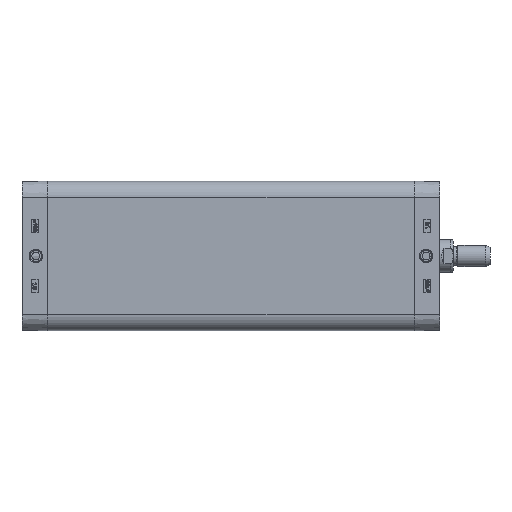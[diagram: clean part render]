
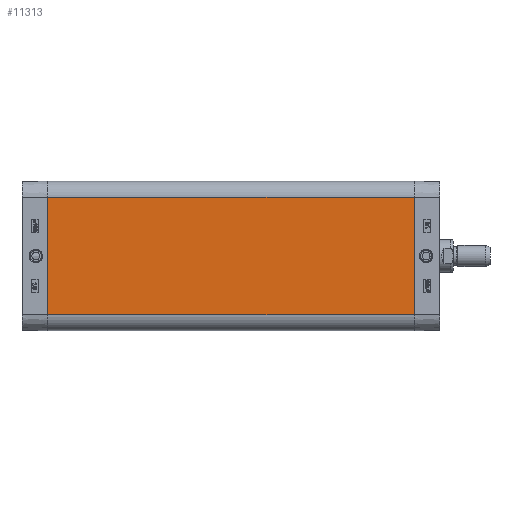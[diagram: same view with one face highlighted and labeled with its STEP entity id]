
A CAD part, left-side view. The second image highlights one B-rep face of the part: STEP entity #11313.
In plain terms, the highlighted planar face has unit normal (-1, 0, 0).
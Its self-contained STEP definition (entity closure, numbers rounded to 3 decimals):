
#5678=CARTESIAN_POINT('',(-56.65,-278.0,44.4));
#5679=VERTEX_POINT('',#5678);
#5686=CARTESIAN_POINT('',(-56.65,-278.0,-44.4));
#5687=VERTEX_POINT('',#5686);
#5688=CARTESIAN_POINT('',(-56.65,-278.0,-44.4));
#5689=DIRECTION('',(0.0,0.0,1.0));
#5690=VECTOR('',#5689,88.8);
#5691=LINE('',#5688,#5690);
#5692=EDGE_CURVE('',#5687,#5679,#5691,.T.);
#11271=CARTESIAN_POINT('',(-56.65,0.0,-44.4));
#11272=VERTEX_POINT('',#11271);
#11273=CARTESIAN_POINT('',(-56.65,0.0,-44.4));
#11274=DIRECTION('',(0.0,-1.0,0.0));
#11275=VECTOR('',#11274,278.0);
#11276=LINE('',#11273,#11275);
#11277=EDGE_CURVE('',#11272,#5687,#11276,.T.);
#11290=CARTESIAN_POINT('',(-56.65,0.0,-44.4));
#11291=DIRECTION('',(-1.0,0.0,0.0));
#11292=DIRECTION('',(0.0,0.0,1.0));
#11293=AXIS2_PLACEMENT_3D('',#11290,#11291,#11292);
#11294=PLANE('',#11293);
#11295=ORIENTED_EDGE('',*,*,#5692,.T.);
#11296=CARTESIAN_POINT('',(-56.65,0.0,44.4));
#11297=VERTEX_POINT('',#11296);
#11298=CARTESIAN_POINT('',(-56.65,0.0,44.4));
#11299=DIRECTION('',(0.0,-1.0,0.0));
#11300=VECTOR('',#11299,278.0);
#11301=LINE('',#11298,#11300);
#11302=EDGE_CURVE('',#11297,#5679,#11301,.T.);
#11303=ORIENTED_EDGE('',*,*,#11302,.F.);
#11304=CARTESIAN_POINT('',(-56.65,0.0,-44.4));
#11305=DIRECTION('',(0.0,0.0,1.0));
#11306=VECTOR('',#11305,88.8);
#11307=LINE('',#11304,#11306);
#11308=EDGE_CURVE('',#11272,#11297,#11307,.T.);
#11309=ORIENTED_EDGE('',*,*,#11308,.F.);
#11310=ORIENTED_EDGE('',*,*,#11277,.T.);
#11311=EDGE_LOOP('',(#11295,#11303,#11309,#11310));
#11312=FACE_OUTER_BOUND('',#11311,.T.);
#11313=ADVANCED_FACE('',(#11312),#11294,.T.);
